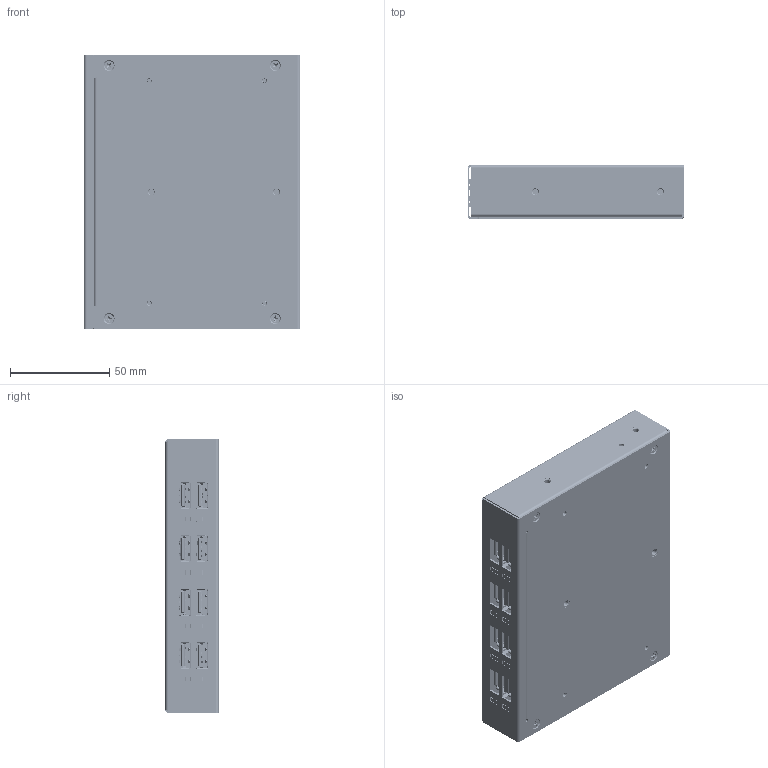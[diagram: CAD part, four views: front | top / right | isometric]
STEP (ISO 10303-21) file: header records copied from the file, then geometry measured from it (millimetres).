
FILE_DESCRIPTION (( 'STEP AP214' ), '1' );
FILE_NAME ('Assem28.STEP', '2025-02-11T15:35:51', ( '' ), ( '' ), 'SwSTEP 2.0', 'SolidWorks 2024', '' );
FILE_SCHEMA (( 'AUTOMOTIVE_DESIGN' ));
Products named in the file (2): Assem28; PBULD00184
Assembly tree (1 placements, depth 2):
  Assem28
    PBULD00184
Bounding box: 109.2 x 27 x 137.78 mm (x, y, z)
Surface area: 150181.9 mm2 (no closed solid volume)
Topology: 0 solids, 2477 shells, 14973 faces, 61171 edges, 47439 vertices
Faces by surface type: plane 10911, cylinder 3353, cone 304, bspline 290, torus 64, sphere 51
Full cylindrical faces by diameter (mm): 0.08 x16, 0.254 x27, 0.3 x931, 0.386 x1, 0.7 x56, 0.8 x4, 0.9 x15, 1 x8, 1.016 x2, 1.02 x4, 1.2 x4, 1.4 x2, 1.499 x2, 1.5 x1, 1.53 x2, 1.9 x1, 2.013 x8, 2.3 x22, 2.5 x6, 2.85 x4, 3 x3, 3.15 x4, 3.2 x4, 3.21 x4, 3.5 x1, 3.79 x4, 3.81 x4, 4.695 x4, 4.73 x4, 4.75 x4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
Entity records: 650337 total; most frequent: CARTESIAN_POINT 174866, DIRECTION 87328, ORIENTED_EDGE 84520, EDGE_CURVE 59712, VERTEX_POINT 47326, LINE 40230, VECTOR 40230, AXIS2_PLACEMENT_3D 23549
